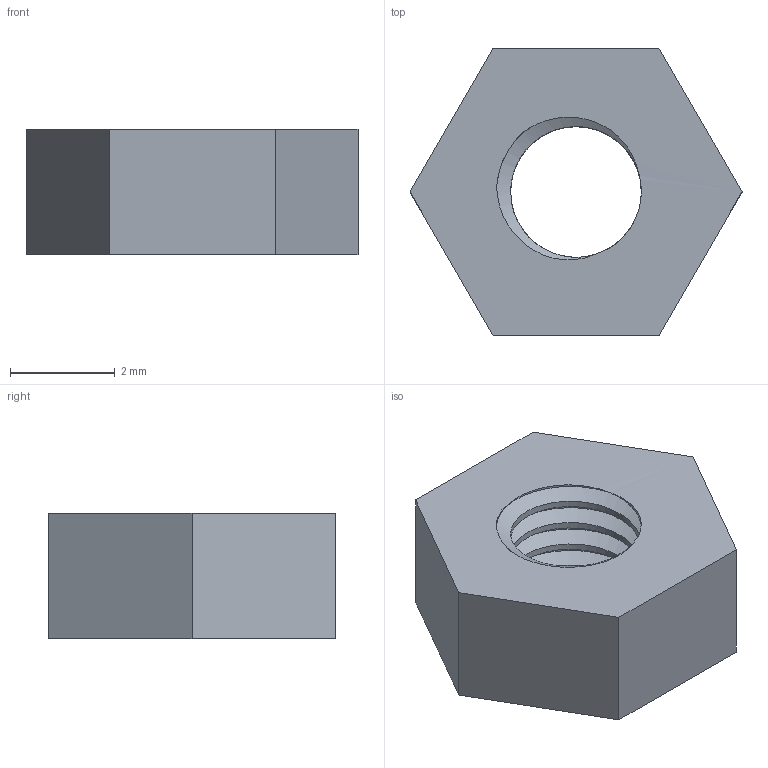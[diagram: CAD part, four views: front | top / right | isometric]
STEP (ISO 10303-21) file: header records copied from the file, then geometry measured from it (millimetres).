
FILE_DESCRIPTION (( 'STEP AP203' ), '1' );
FILE_NAME ('06_Dai_oc_M3.STEP', '2026-11-14T10:02:36', ( '' ), ( '' ), 'SwSTEP 2.0', 'SolidWorks 2026', '' );
FILE_SCHEMA (( 'CONFIG_CONTROL_DESIGN' ));
Length unit declared in the file: metre
Products named in the file (1): 06_Dai_oc_M3
Bounding box: 6.35 x 5.5 x 2.4 mm (x, y, z)
Volume: 48.9 mm3; surface area: 119.9 mm2
Topology: 1 solids, 1 shells, 23 faces, 60 edges, 39 vertices
Faces by surface type: cylinder 11, plane 9, bspline 3
Entity records: 1367 total; most frequent: CARTESIAN_POINT 808, ORIENTED_EDGE 120, DIRECTION 75, EDGE_CURVE 60, VERTEX_POINT 39, VECTOR 29, LINE 29, EDGE_LOOP 25
